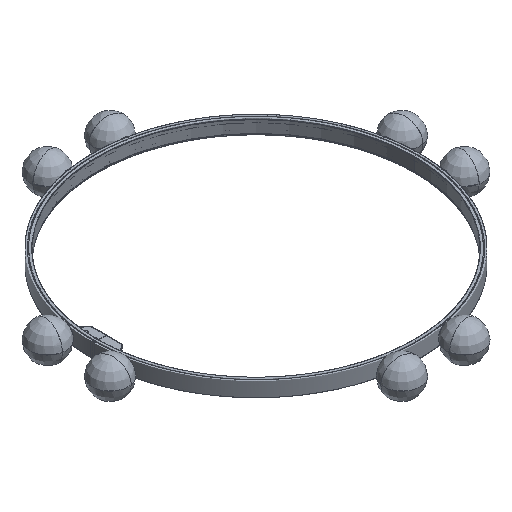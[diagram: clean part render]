
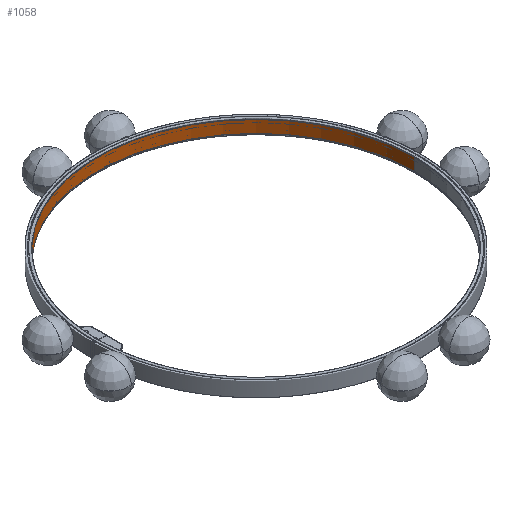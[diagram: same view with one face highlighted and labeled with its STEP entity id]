
A CAD part, isometric view. The second image highlights one B-rep face of the part: STEP entity #1058.
In plain terms, the highlighted free-form (B-spline) face has degree [1, 2] with [2, 5] control points.
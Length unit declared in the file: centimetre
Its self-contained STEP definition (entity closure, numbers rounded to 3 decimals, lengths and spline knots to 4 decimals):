
#1058=ADVANCED_FACE('',(#1692),#9745,.T.);
#1692=FACE_OUTER_BOUND('',#2443,.T.);
#2443=EDGE_LOOP('',(#5336,#5337,#5338,#5339));
#5336=ORIENTED_EDGE('',*,*,#6787,.T.);
#5337=ORIENTED_EDGE('',*,*,#6782,.T.);
#5338=ORIENTED_EDGE('',*,*,#6775,.F.);
#5339=ORIENTED_EDGE('',*,*,#6786,.F.);
#6775=EDGE_CURVE('',#9130,#9129,#7384,.T.);
#6782=EDGE_CURVE('',#9132,#9129,#8234,.T.);
#6786=EDGE_CURVE('',#9135,#9130,#8236,.T.);
#6787=EDGE_CURVE('',#9135,#9132,#7389,.T.);
#7384=B_SPLINE_CURVE_WITH_KNOTS('',1,(#30652,#30653),.UNSPECIFIED.,.F.,
 .F.,(2,2),(2.,3.),.UNSPECIFIED.);
#7389=B_SPLINE_CURVE_WITH_KNOTS('',1,(#30697,#30698),.UNSPECIFIED.,.F.,
 .F.,(2,2),(2.,3.),.UNSPECIFIED.);
#8234=(
BOUNDED_CURVE()
B_SPLINE_CURVE(2,(#30678,#30679,#30680,#30681,#30682),.UNSPECIFIED.,.F.,
 .F.)
B_SPLINE_CURVE_WITH_KNOTS((3,2,3),(137.5389,206.3084,275.0779),
 .UNSPECIFIED.)
CURVE()
GEOMETRIC_REPRESENTATION_ITEM()
RATIONAL_B_SPLINE_CURVE((1.,0.707,1.,0.707,1.))
REPRESENTATION_ITEM('')
);
#8236=(
BOUNDED_CURVE()
B_SPLINE_CURVE(2,(#30692,#30693,#30694,#30695,#30696),.UNSPECIFIED.,.F.,
 .F.)
B_SPLINE_CURVE_WITH_KNOTS((3,2,3),(137.5389,206.3084,275.0779),
 .UNSPECIFIED.)
CURVE()
GEOMETRIC_REPRESENTATION_ITEM()
RATIONAL_B_SPLINE_CURVE((1.,0.707,1.,0.707,1.))
REPRESENTATION_ITEM('')
);
#9129=VERTEX_POINT('',#30636);
#9130=VERTEX_POINT('',#30637);
#9132=VERTEX_POINT('',#30639);
#9135=VERTEX_POINT('',#30642);
#9745=(
BOUNDED_SURFACE()
B_SPLINE_SURFACE(1,2,((#30625,#30626,#30627,#30628,#30629),(#30630,#30631,
#30632,#30633,#30634)),.UNSPECIFIED.,.F.,.F.,.F.)
B_SPLINE_SURFACE_WITH_KNOTS((2,2),(3,2,3),(2.,3.),(137.5389,206.3084,
275.0779),.UNSPECIFIED.)
GEOMETRIC_REPRESENTATION_ITEM()
RATIONAL_B_SPLINE_SURFACE(((1.,0.707,1.,0.707,1.),
(1.,0.707,1.,0.707,1.)))
REPRESENTATION_ITEM('')
SURFACE()
);
#30625=CARTESIAN_POINT('',(43.68,500.,3.815));
#30626=CARTESIAN_POINT('',(43.68,543.68,3.815));
#30627=CARTESIAN_POINT('',(0.,543.68,3.815));
#30628=CARTESIAN_POINT('',(-43.68,543.68,3.815));
#30629=CARTESIAN_POINT('',(-43.68,500.,3.815));
#30630=CARTESIAN_POINT('',(43.68,500.,7.185));
#30631=CARTESIAN_POINT('',(43.68,543.68,7.185));
#30632=CARTESIAN_POINT('',(0.,543.68,7.185));
#30633=CARTESIAN_POINT('',(-43.68,543.68,7.185));
#30634=CARTESIAN_POINT('',(-43.68,500.,7.185));
#30636=CARTESIAN_POINT('',(-43.68,500.,7.185));
#30637=CARTESIAN_POINT('',(-43.68,500.,3.815));
#30639=CARTESIAN_POINT('',(43.68,500.,7.185));
#30642=CARTESIAN_POINT('',(43.68,500.,3.815));
#30652=CARTESIAN_POINT('',(-43.68,500.,3.815));
#30653=CARTESIAN_POINT('',(-43.68,500.,7.185));
#30678=CARTESIAN_POINT('',(43.68,500.,7.185));
#30679=CARTESIAN_POINT('',(43.68,543.68,7.185));
#30680=CARTESIAN_POINT('',(0.,543.68,7.185));
#30681=CARTESIAN_POINT('',(-43.68,543.68,7.185));
#30682=CARTESIAN_POINT('',(-43.68,500.,7.185));
#30692=CARTESIAN_POINT('',(43.68,500.,3.815));
#30693=CARTESIAN_POINT('',(43.68,543.68,3.815));
#30694=CARTESIAN_POINT('',(0.,543.68,3.815));
#30695=CARTESIAN_POINT('',(-43.68,543.68,3.815));
#30696=CARTESIAN_POINT('',(-43.68,500.,3.815));
#30697=CARTESIAN_POINT('',(43.68,500.,3.815));
#30698=CARTESIAN_POINT('',(43.68,500.,7.185));
